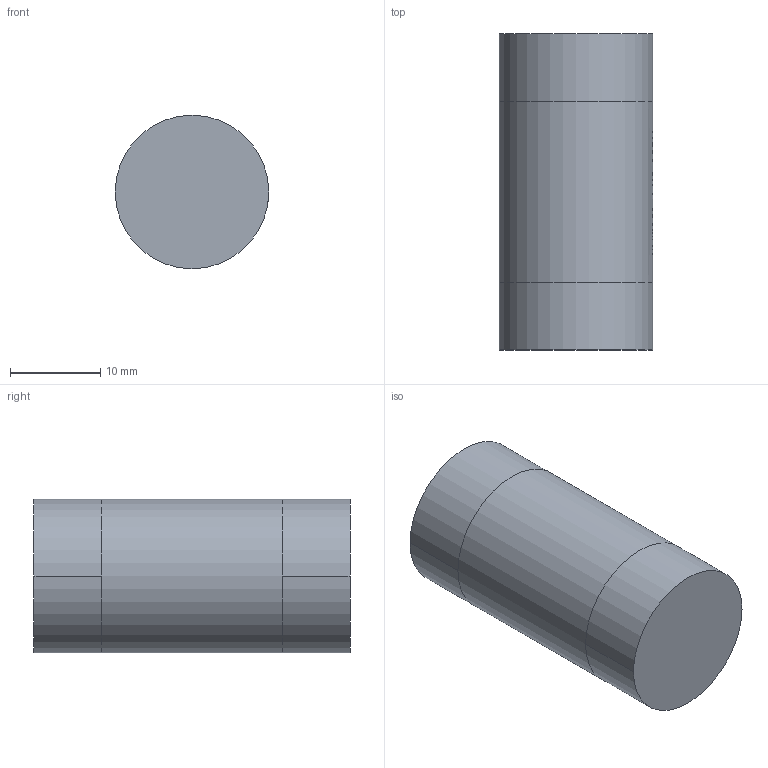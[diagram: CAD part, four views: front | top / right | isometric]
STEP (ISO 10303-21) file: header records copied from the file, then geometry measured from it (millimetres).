
FILE_DESCRIPTION(('FreeCAD Model'),'2;1');
FILE_NAME('Open CASCADE Shape Model','2023-05-06T18:44:57',('Author'),( ''),'Open CASCADE STEP processor 7.5','FreeCAD','Unknown');
FILE_SCHEMA(('AUTOMOTIVE_DESIGN { 1 0 10303 214 1 1 1 1 }'));
Length unit declared in the file: millimetre
Products named in the file (1): ACB_17350 3.7v 850mAh
Bounding box: 17 x 35 x 17 mm (x, y, z)
Volume: 7944.3 mm3; surface area: 2323.2 mm2
Topology: 1 solids, 1 shells, 33 faces, 328 edges, 304 vertices
Faces by surface type: cylinder 31, plane 2
Full cylindrical faces by diameter (mm): 17 x1
Entity records: 4566 total; most frequent: CARTESIAN_POINT 2494, ORIENTED_EDGE 540, EDGE_CURVE 270, VERTEX_POINT 266, DIRECTION 189, B_SPLINE_CURVE_WITH_KNOTS 183, AXIS2_PLACEMENT_3D 72, EDGE_LOOP 52
